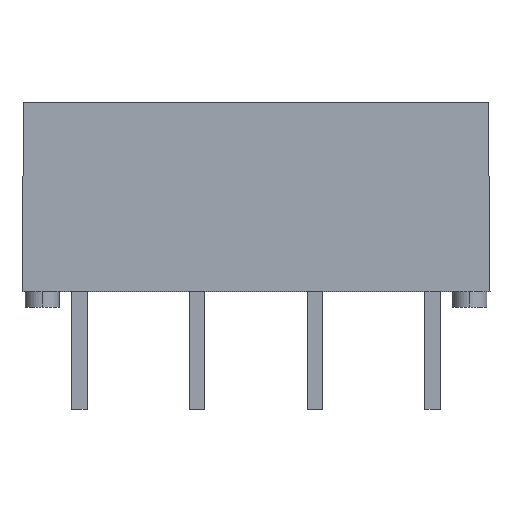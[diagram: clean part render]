
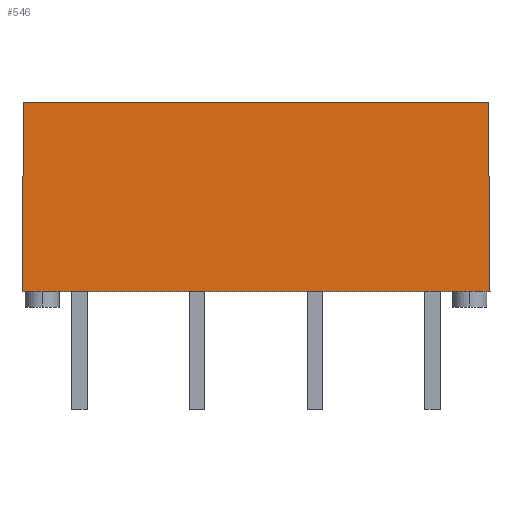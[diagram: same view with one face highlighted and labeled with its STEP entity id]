
A CAD part, top view. The second image highlights one B-rep face of the part: STEP entity #546.
In plain terms, the highlighted planar face has unit normal (0, 0.009, 1).
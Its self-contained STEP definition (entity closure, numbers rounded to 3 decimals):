
#546 = ADVANCED_FACE ( 'NONE', ( #3616 ), #3615, .T. ) ;
#547 = EDGE_LOOP ( 'NONE', ( #548, #612, #615, #616 ) ) ;
#548 = ORIENTED_EDGE ( 'NONE', *, *, #2300, .T. ) ;
#612 = ORIENTED_EDGE ( 'NONE', *, *, #613, .F. ) ;
#613 = EDGE_CURVE ( 'NONE', #1988, #2305, #3702, .T. ) ;
#615 = ORIENTED_EDGE ( 'NONE', *, *, #1987, .F. ) ;
#616 = ORIENTED_EDGE ( 'NONE', *, *, #632, .T. ) ;
#632 = EDGE_CURVE ( 'NONE', #1903, #2287, #3748, .T. ) ;
#1903 = VERTEX_POINT ( 'NONE', #6846 ) ;
#1987 = EDGE_CURVE ( 'NONE', #1903, #1988, #7079, .T. ) ;
#1988 = VERTEX_POINT ( 'NONE', #7075 ) ;
#2287 = VERTEX_POINT ( 'NONE', #7987 ) ;
#2300 = EDGE_CURVE ( 'NONE', #2287, #2305, #8052, .T. ) ;
#2305 = VERTEX_POINT ( 'NONE', #8146 ) ;
#3611 = DIRECTION ( 'NONE',  ( 0., -1., 0.009 ) ) ;
#3612 = DIRECTION ( 'NONE',  ( 0., 0.009, 1. ) ) ;
#3613 = CARTESIAN_POINT ( 'NONE',  ( 7.55, 0., 1.85 ) ) ;
#3614 = AXIS2_PLACEMENT_3D ( 'NONE', #3613, #3612, #3611 ) ;
#3615 = PLANE ( 'NONE',  #3614 ) ;
#3616 = FACE_OUTER_BOUND ( 'NONE', #547, .T. ) ;
#3699 = DIRECTION ( 'NONE',  ( 0.009, -1., 0.009 ) ) ;
#3700 = VECTOR ( 'NONE', #3699, 1000. ) ;
#3701 = CARTESIAN_POINT ( 'NONE',  ( 7.55, 0., 1.85 ) ) ;
#3702 = LINE ( 'NONE', #3701, #3700 ) ;
#3742 = DIRECTION ( 'NONE',  ( -0.009, -1., 0.009 ) ) ;
#3743 = VECTOR ( 'NONE', #3742, 1000. ) ;
#3744 = CARTESIAN_POINT ( 'NONE',  ( -7.549, 0.132, 1.849 ) ) ;
#3748 = LINE ( 'NONE', #3744, #3743 ) ;
#6846 = CARTESIAN_POINT ( 'NONE',  ( -7.497, 6.092, 1.797 ) ) ;
#7075 = CARTESIAN_POINT ( 'NONE',  ( 7.497, 6.092, 1.797 ) ) ;
#7076 = DIRECTION ( 'NONE',  ( 1., 0., 0. ) ) ;
#7077 = VECTOR ( 'NONE', #7076, 1000. ) ;
#7078 = CARTESIAN_POINT ( 'NONE',  ( 7.55, 6.092, 1.797 ) ) ;
#7079 = LINE ( 'NONE', #7078, #7077 ) ;
#7987 = CARTESIAN_POINT ( 'NONE',  ( -7.55, 0., 1.85 ) ) ;
#8047 = DIRECTION ( 'NONE',  ( 1., 0., 0. ) ) ;
#8049 = VECTOR ( 'NONE', #8047, 1000. ) ;
#8051 = CARTESIAN_POINT ( 'NONE',  ( 7.55, 0., 1.85 ) ) ;
#8052 = LINE ( 'NONE', #8051, #8049 ) ;
#8146 = CARTESIAN_POINT ( 'NONE',  ( 7.55, 0., 1.85 ) ) ;
